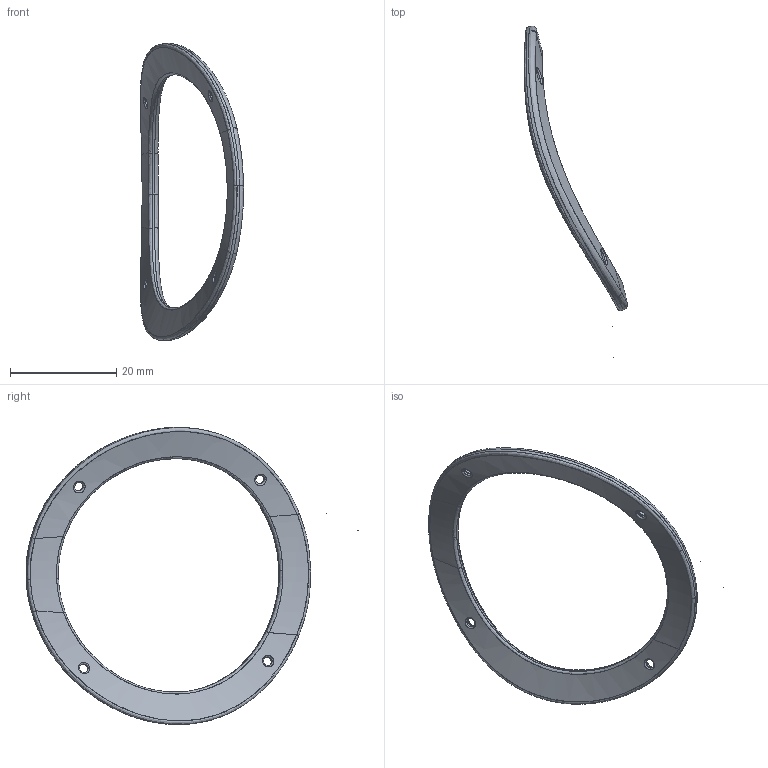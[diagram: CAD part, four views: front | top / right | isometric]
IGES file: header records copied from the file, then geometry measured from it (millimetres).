
Start section: Speaker 2 inch..SLDPRT - PrototypeComponentType Speaker 2 inch..SLDPRT - PrototypeComponentType Speaker 2 inch..SLDPRT - PrototypeComponentType Speaker 2 inch..SLDPRT - PrototypeComponentType 10 rocker-switch-KCD1..SLDPRT - PrototypeComponentType 10 rocker-switch-KCD1..SLDPRT - PrototypeComponentType 10 rocker-switch-KCD1..SLDPRT - PrototypeComponentType 10 rocker-switch-KCD1..SLDPRT - PrototypeCo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
Global section: file name: C:\Users\Victor\Desktop\AroIzquierda.igs; native system: Rhinoceros ( Feb 27 2019 ); preprocessor: Trout Lake IGES 012 Feb 27 2019; date: 240310.231447; units: millimetre
Bounding box: 19.38 x 62.38 x 55.87 mm (x, y, z)
Surface area: 2389.6 mm2 (no closed solid volume)
Topology: 0 solids, 0 shells, 90 faces, 1045 edges, 1042 vertices
Faces by surface type: bspline 90
